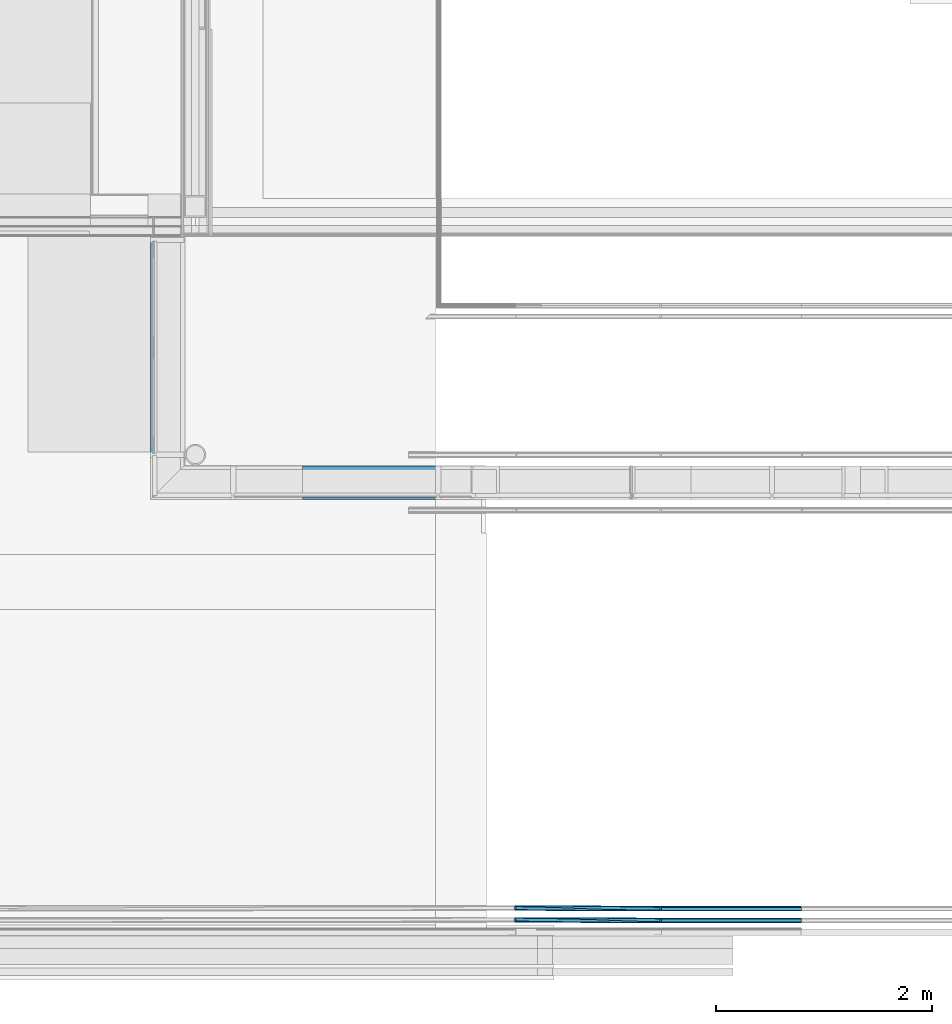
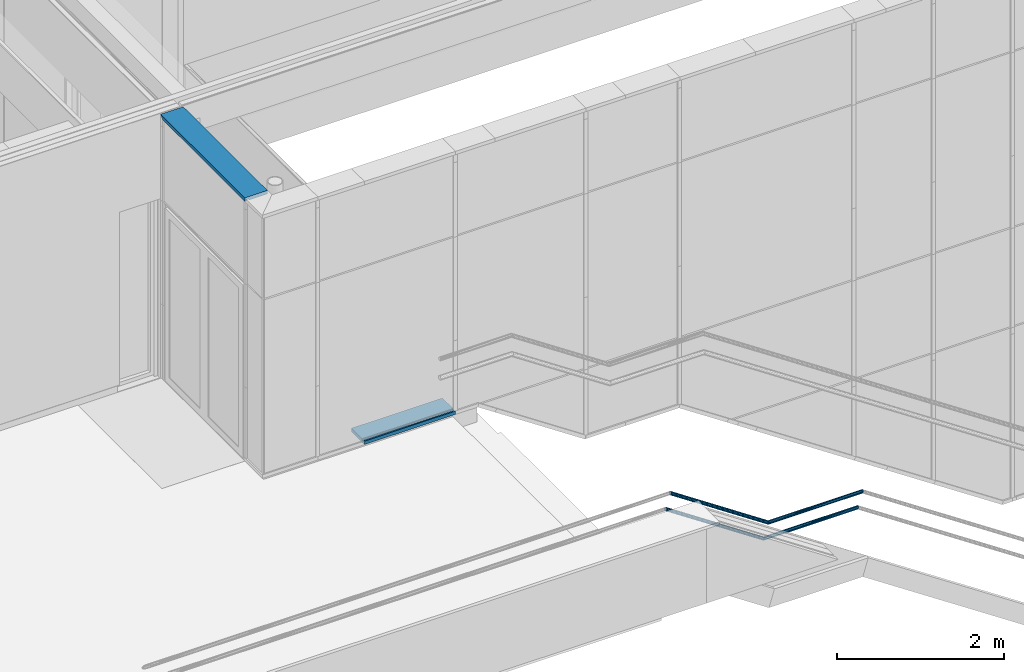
# One storey, part 13 of 137: 6 members, 2 elements without a shape of their own.
"""IFC2X3 building model written with IfcOpenShell, lengths in millimetres."""

import ifcopenshell
import ifcopenshell.guid

model = None  # the IFC model being written
_history = None  # IfcOwnerHistory: only IFC2X3 demands one
_inside = {}  # id of a spatial element -> (the spatial element, [elements in it])
_under = {}  # id of a project, library or spatial element -> (it, [spatial elements below it])
_declared = {}  # id of a project -> (the project, [libraries it declares])
_typed = {}  # id of a type object -> (the type object, [elements of that type])
_made_of = {}  # id of a material, layer set ... -> (it, [elements and type objects made of it])


def new_model(schema):
    """Start an empty IFC model of exactly this schema.

    Asked for "IFC4X3", IfcOpenShell would pick the latest addendum, in which some entities
    have other attributes; the version numbers below select the first issue.
    IFC2X3 requires an IfcOwnerHistory on every rooted entity: one is made here for all.
    """
    global model, _history
    if schema == "IFC4X3":
        model = ifcopenshell.file(schema_version=(4, 3, 0, 0))
    else:
        model = ifcopenshell.file(schema=schema)
    _inside.clear()
    _under.clear()
    _declared.clear()
    _typed.clear()
    _made_of.clear()
    _history = None
    if model.schema == "IFC2X3":
        org = make("IfcOrganization", Name="unknown")
        user = make(
            "IfcPersonAndOrganization",
            ThePerson=make("IfcPerson", FamilyName="unknown"),
            TheOrganization=org,
        )
        app = make(
            "IfcApplication",
            ApplicationDeveloper=org,
            Version="unknown",
            ApplicationFullName="unknown",
            ApplicationIdentifier="unknown",
        )
        _history = make(
            "IfcOwnerHistory",
            OwningUser=user,
            OwningApplication=app,
            ChangeAction="ADDED",
            CreationDate=0,
        )
    return model


def make(cls, **values):
    """One entity of the class cls with the attributes given. An attribute that is None is left unset."""
    return model.create_entity(
        cls, **{name: value for name, value in values.items() if value is not None}
    )


def entity(cls, *values):
    """Any entity or typed value of the class cls, its attributes in the order of the schema. None: left unset."""
    e = model.create_entity(cls)
    for i, value in enumerate(values):
        if value is not None:
            e[i] = value
    return e


def rooted(cls, **values):
    """An entity with a GlobalId (a new one), such as an element, a storey or a relation."""
    return make(cls, GlobalId=ifcopenshell.guid.new(), OwnerHistory=_history, **values)


def si_unit(unit_type, name, prefix=None):
    """IfcSIUnit, for example si_unit("LENGTHUNIT", "METRE", prefix="MILLI")."""
    return make("IfcSIUnit", UnitType=unit_type, Prefix=prefix, Name=name)


def converted_unit(unit_type, name, factor, base, dimensions=None, offset=None):
    """IfcConversionBasedUnit, such as the inch: factor (a typed value) times the base unit."""
    return make(
        "IfcConversionBasedUnit"
        if offset is None
        else "IfcConversionBasedUnitWithOffset",
        ConversionOffset=offset,
        Dimensions=None
        if dimensions is None
        else entity("IfcDimensionalExponents", *dimensions),
        UnitType=unit_type,
        Name=name,
        ConversionFactor=make(
            "IfcMeasureWithUnit", ValueComponent=factor, UnitComponent=base
        ),
    )


def derived_unit(unit_type, elements):
    """IfcDerivedUnit: a product of units, each with its exponent."""
    return make(
        "IfcDerivedUnit",
        Elements=[
            make("IfcDerivedUnitElement", Unit=unit, Exponent=power)
            for unit, power in elements
        ],
        UnitType=unit_type,
    )


def money_unit(currency):
    """IfcMonetaryUnit."""
    return make("IfcMonetaryUnit", Currency=currency)


def assignment(units):
    """IfcUnitAssignment: the units of a project."""
    return None if units is None else make("IfcUnitAssignment", Units=units)


def point(xyz):
    """IfcCartesianPoint."""
    return None if xyz is None else make("IfcCartesianPoint", Coordinates=xyz)


def direction(xyz):
    """IfcDirection."""
    return None if xyz is None else make("IfcDirection", DirectionRatios=xyz)


def frame(location, z_axis=None, x_axis=None):
    """IfcAxis2Placement3D, a coordinate frame: its origin and axes. An axis left out is left unset."""
    return make(
        "IfcAxis2Placement3D",
        Location=point(location),
        Axis=direction(z_axis),
        RefDirection=direction(x_axis),
    )


def origin_with_axes():
    """The frame at (0, 0, 0) with the z axis (0, 0, 1) and the x axis (1, 0, 0) written out."""
    return frame((0.0, 0.0, 0.0), z_axis=(0.0, 0.0, 1.0), x_axis=(1.0, 0.0, 0.0))


def place(relative_to, where):
    """IfcLocalPlacement: puts the frame where relative to a parent placement (None: the world)."""
    return make(
        "IfcLocalPlacement", PlacementRelTo=relative_to, RelativePlacement=where
    )


def context(
    kind, dimensions, precision=None, world=None, true_north=None, identifier=None
):
    """IfcGeometricRepresentationContext, for example the 3D "Model" context."""
    return make(
        "IfcGeometricRepresentationContext",
        ContextIdentifier=identifier,
        ContextType=kind,
        CoordinateSpaceDimension=dimensions,
        Precision=precision,
        WorldCoordinateSystem=world,
        TrueNorth=true_north,
    )


def subcontext(parent, identifier, kind, view, scale=None):
    """IfcGeometricRepresentationSubContext, for example "Body" below "Model"."""
    return make(
        "IfcGeometricRepresentationSubContext",
        ContextIdentifier=identifier,
        ContextType=kind,
        ParentContext=parent,
        TargetScale=scale,
        TargetView=view,
    )


def project(units=None, contexts=None):
    """IfcProject with its units and contexts."""
    return rooted(
        "IfcProject",
        Name="project",
        RepresentationContexts=contexts,
        UnitsInContext=assignment(units),
    )


def spatial(cls, under=None, at=None, **own):
    """A site, building, storey or space (cls), placed at a placement, below another one or the project."""
    s = rooted(cls, ObjectPlacement=at, **own)
    if under is not None:
        _under.setdefault(under.id(), (under, []))[1].append(s)
    return s


def faces_of(points, faces, orient=None, outer=None):
    """IfcFace entities. A face is a list of loops; a loop is a list of indices into points, from 0.

    orient and outer hold one flag for each loop. By default every Orientation is true, the
    first loop of a face is its IfcFaceOuterBound and the others are IfcFaceBound.
    """
    made = []
    for i, loops in enumerate(faces):
        bounds = []
        for j, loop in enumerate(loops):
            is_outer = j == 0 if outer is None else outer[i][j]
            bounds.append(
                make(
                    "IfcFaceOuterBound" if is_outer else "IfcFaceBound",
                    Bound=make("IfcPolyLoop", Polygon=[points[k] for k in loop]),
                    Orientation=True if orient is None else orient[i][j],
                )
            )
        made.append(make("IfcFace", Bounds=bounds))
    return made


def faceted_brep(points, faces, orient=None, outer=None, voids=None):
    """IfcFacetedBrep: a solid bounded by flat faces; with voids (closed shells), ...WithVoids."""
    shared = [point(p) for p in points]
    hull = make("IfcClosedShell", CfsFaces=faces_of(shared, faces, orient, outer))
    if voids is None:
        return make("IfcFacetedBrep", Outer=hull)
    return make(
        "IfcFacetedBrepWithVoids",
        Outer=hull,
        Voids=[
            make(cls, CfsFaces=faces_of(shared, fs, o, b)) for cls, fs, o, b in voids
        ],
    )


def shape(context_of_items, identifier, shape_type, items):
    """IfcShapeRepresentation: the items that make up one representation, for example the "Body"."""
    return make(
        "IfcShapeRepresentation",
        ContextOfItems=context_of_items,
        RepresentationIdentifier=identifier,
        RepresentationType=shape_type,
        Items=items,
    )


def material(Name=None, Category=None):
    """IfcMaterial."""
    return make("IfcMaterial", Name=Name, Category=Category)


def made_of(thing, what):
    """Note that an element or type object is made of a material, layer set ...; save() writes the relation."""
    if what is not None:
        _made_of.setdefault(what.id(), (what, []))[1].append(thing)
    return thing


def type_object(cls, material=None, **own):
    """A type object (cls), such as IfcWallType, which elements share."""
    return made_of(rooted(cls, **own), material)


def element(
    cls,
    number,
    at=None,
    inside=None,
    cuts=None,
    type_object=None,
    material=None,
    context=None,
    identifier="Body",
    shape_type=None,
    held_by="IfcProductDefinitionShape",
    body=None,
    shapes=None,
    **own,
):
    """One element of the class cls, such as IfcWall. Its Tag is "e" and its number.

    at: its placement. inside: the storey or other place that contains it. cuts: it is an
    opening in that element (IfcRelVoidsElement). A single representation is given by context,
    identifier, shape_type and body (its items); several are given by shapes. held_by: the class
    of the entity that holds the representations. save() writes the other relations.
    """
    e = rooted(cls, Tag="e%d" % number, ObjectPlacement=at, **own)
    if body is not None:
        shapes = [shape(context, identifier, shape_type, body)]
    if shapes is not None:
        e.Representation = make(held_by, Representations=shapes)
    if inside is not None:
        _inside.setdefault(inside.id(), (inside, []))[1].append(e)
    if cuts is not None:
        rooted(
            "IfcRelVoidsElement", RelatingBuildingElement=cuts, RelatedOpeningElement=e
        )
    if type_object is not None:
        _typed.setdefault(type_object.id(), (type_object, []))[1].append(e)
    return made_of(e, material)


def aggregate(whole, parts):
    """IfcRelAggregates: a whole, such as a stair, and the parts it consists of."""
    return rooted("IfcRelAggregates", RelatingObject=whole, RelatedObjects=parts)


def save(model, path):
    """Write the relations noted so far, then the file.

    IfcRelAggregates (storeys below a building ...), IfcRelContainedInSpatialStructure (elements
    in a storey), IfcRelDefinesByType, IfcRelAssociatesMaterial and IfcRelDeclares: one each for
    every whole, place, type object, material and project.
    """
    for whole, parts in _under.values():
        aggregate(whole, parts)
    for where, things in _inside.values():
        rooted(
            "IfcRelContainedInSpatialStructure",
            RelatedElements=things,
            RelatingStructure=where,
        )
    for kind, things in _typed.values():
        rooted("IfcRelDefinesByType", RelatedObjects=things, RelatingType=kind)
    for what, things in _made_of.values():
        rooted("IfcRelAssociatesMaterial", RelatedObjects=things, RelatingMaterial=what)
    for by, libraries in _declared.values():
        rooted("IfcRelDeclares", RelatingContext=by, RelatedDefinitions=libraries)
    model.write(path)


model = new_model("IFC2X3")

# Units and contexts
model_context = context("Model", 3, precision=0.01, world=origin_with_axes(), true_north=direction((0.0, 1.0)))
body_context = subcontext(model_context, "Body", "Model", "MODEL_VIEW")
ifc_project = project(units=[si_unit("LENGTHUNIT", "METRE", prefix="MILLI"), si_unit("AREAUNIT", "SQUARE_METRE"), si_unit("VOLUMEUNIT", "CUBIC_METRE"), converted_unit("PLANEANGLEUNIT", "DEGREE", entity("IfcPlaneAngleMeasure", 0.0174532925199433), si_unit("PLANEANGLEUNIT", "RADIAN"), dimensions=[0, 0, 0, 0, 0, 0, 0]), money_unit("EUR"), converted_unit("TIMEUNIT", "Year", entity("IfcTimeMeasure", 31556926.0), si_unit("TIMEUNIT", "SECOND"), dimensions=[0, 0, 1, 0, 0, 0, 0]), si_unit("MASSUNIT", "GRAM", prefix="KILO"), si_unit("THERMODYNAMICTEMPERATUREUNIT", "DEGREE_CELSIUS"), si_unit("LUMINOUSINTENSITYUNIT", "LUMEN"), si_unit("ENERGYUNIT", "JOULE", prefix="MEGA"), derived_unit("THERMALCONDUCTANCEUNIT", [(si_unit("POWERUNIT", "WATT"), 1), (si_unit("LENGTHUNIT", "METRE"), -1), (si_unit("THERMODYNAMICTEMPERATUREUNIT", "KELVIN"), -1)]), derived_unit("SPECIFICHEATCAPACITYUNIT", [(si_unit("ENERGYUNIT", "JOULE"), 1), (si_unit("MASSUNIT", "GRAM", prefix="KILO"), -1), (si_unit("THERMODYNAMICTEMPERATUREUNIT", "KELVIN"), -1)]), derived_unit("MASSDENSITYUNIT", [(si_unit("MASSUNIT", "GRAM", prefix="KILO"), 1), (si_unit("VOLUMEUNIT", "CUBIC_METRE"), -1)])], contexts=[model_context])

# Site, building, storey
site_placement = place(None, origin_with_axes())
site = spatial("IfcSite", under=ifc_project, at=site_placement, Name="Site", CompositionType="ELEMENT")
building_placement = place(site_placement, origin_with_axes())
building = spatial("IfcBuilding", under=site, at=building_placement, Name="Naam gebouw", CompositionType="ELEMENT")
storey_placement = place(building_placement, frame((0.0, 0.0, 3960.0), z_axis=(0.0, 0.0, 1.0), x_axis=(1.0, 0.0, 0.0)))
storey = spatial("IfcBuildingStorey", under=building, at=storey_placement, Name="1e verdieping", CompositionType="ELEMENT", Elevation=3960.0)

# Railing, members
railing_type = type_object("IfcRailingType", Name="Railing Type", PredefinedType="NOTDEFINED")
railing_placement = place(storey_placement, frame((12900.00010768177, 231.9997137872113, -3791.995884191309), z_axis=(0.0, 0.0, 1.0), x_axis=(1.0, 0.0, 0.0)))
railing = element("IfcRailing", 1, at=railing_placement, inside=storey, type_object=railing_type, Name="34_Reling-x", PredefinedType="NOTDEFINED")
ifc_material_1 = material(Name="Metaal - RVS")
member_type_1 = type_object("IfcMemberType", Name="IfcMember", PredefinedType="USERDEFINED")
member_1_placement = place(railing_placement, frame((-404.7501801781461, 142.5595843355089, 3538.138020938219), z_axis=(0.0, 0.0, 1.0), x_axis=(1.0, 0.0, 0.0)))
member_1 = element("IfcMember", 2, at=member_1_placement, type_object=member_type_1, material=ifc_material_1, Name="h3 Staal legeringen_Handregel-x", context=body_context, shape_type="Brep", body=[
    faceted_brep([(-682.2918659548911, 26.72041909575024, 929.8716788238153), (-681.022689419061, 26.35164558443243, 934.0652779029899), (669.0142893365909, 21.23394089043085, 34.0446478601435), (-683.5621292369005, 26.35540652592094, 925.6780797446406), (-684.7948829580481, 25.26769859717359, 921.6119010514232), (-685.9526705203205, 23.49034476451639, 917.7966915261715), (-687.0003131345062, 21.07734902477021, 914.3483743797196), (-687.9059787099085, 18.10202903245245, 911.3717249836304), (-688.6421490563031, 14.6547883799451, 908.9571873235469), (-689.1864560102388, 10.84036973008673, 907.1781259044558), (-689.5223610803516, 6.774672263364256, 906.0885966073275), (-689.6396579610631, 2.581230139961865, 905.7217042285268), (-689.5347826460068, -1.612541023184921, 906.0885966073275), (-689.2109217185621, -5.679215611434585, 907.1781259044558), (-688.6779155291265, -9.495229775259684, 908.9571873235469), (-687.9519592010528, -12.94463585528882, 911.3717249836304), (-687.055110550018, -15.92262539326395, 914.3483743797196), (-686.0146198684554, -18.33871368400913, 917.7966915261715), (-684.8621019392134, -20.11948910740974, 921.6119010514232), (-683.6325754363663, -21.21084370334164, 925.6780797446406), (-682.3633989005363, -21.57961721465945, 929.8716788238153), (-681.0931356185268, -21.21460464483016, 934.0652779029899), (-679.8603818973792, -20.12689671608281, 938.1314565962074), (-678.7025943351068, -18.34954288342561, 941.9466661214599), (-677.6549517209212, -15.93654714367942, 945.3949832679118), (-676.7492861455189, -12.96122715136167, 948.371632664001), (-676.0131157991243, -9.51398649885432, 950.7861703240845), (-675.4688088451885, -5.699567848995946, 952.5652317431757), (-675.1329037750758, -1.633870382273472, 953.6547610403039), (-675.0156068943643, 2.559571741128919, 954.0216534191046), (-675.1204822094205, 6.753342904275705, 953.6547610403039), (-675.4443431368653, 10.82001749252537, 952.5652317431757), (-675.9773493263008, 14.63603165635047, 950.7861703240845), (-676.7033056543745, 18.08543773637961, 948.371632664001), (-677.6001543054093, 21.06342727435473, 945.3949832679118), (-678.640644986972, 23.47951556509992, 941.9466661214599), (-679.793162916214, 25.26029098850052, 938.1314565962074), (670.2435468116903, 20.1422903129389, 38.11083027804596), (667.7452078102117, 21.60302022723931, 29.85104493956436), (666.4748626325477, 21.23831403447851, 25.65744201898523), (665.241852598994, 20.15090372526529, 21.59125960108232), (664.0836420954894, 18.37382971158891, 17.77604658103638), (663.035422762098, 15.96108748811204, 14.32772627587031), (662.1290442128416, 12.98598700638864, 11.3510741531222), (661.3920463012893, 9.538925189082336, 8.936534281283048), (660.8468223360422, 5.724639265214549, 7.157471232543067), (660.5099386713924, 1.659024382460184, 6.067940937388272), (660.3916313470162, -2.534387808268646, 5.701048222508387), (660.4954950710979, -6.728182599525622, 6.067940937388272), (660.8183739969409, -10.7949336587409, 7.157471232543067), (661.3504576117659, -14.61107481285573, 8.936534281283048), (662.0755788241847, -18.06065454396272, 11.3510741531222), (662.9717051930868, -21.03885911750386, 14.32772627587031), (664.011608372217, -23.45519729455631, 17.77604658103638), (665.1636914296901, -25.23624986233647, 21.59125960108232), (666.3929489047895, -26.32790043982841, 25.65744201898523), (667.6620304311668, -26.69697977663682, 29.85104493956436), (668.932375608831, -26.33227358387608, 34.0446478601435), (670.1653856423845, -25.24486327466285, 38.11083027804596), (671.323596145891, -23.46778926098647, 41.92604329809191), (672.3718154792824, -21.0550470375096, 45.37436360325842), (673.2781940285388, -18.07994655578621, 48.35101572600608), (674.0151919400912, -14.6328847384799, 50.76555559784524), (674.5604159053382, -10.81859881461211, 52.54461864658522), (674.897299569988, -6.752983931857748, 53.63414894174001), (675.0156068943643, -2.559571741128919, 54.0010416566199), (674.9117431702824, 1.634223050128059, 53.63414894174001), (674.5888642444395, 5.700974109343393, 52.54461864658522), (674.0567806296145, 9.517115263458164, 50.76555559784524), (673.3316594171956, 12.96669499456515, 48.35101572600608), (672.4355330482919, 15.9448995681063, 45.37436360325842), (671.3956298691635, 18.3612377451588, 41.92604329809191)], [[[0, 1, 2]], [[0, 3, 4, 5, 6, 7, 8, 9, 10, 11, 12, 13, 14, 15, 16, 17, 18, 19, 20, 21, 22, 23, 24, 25, 26, 27, 28, 29, 30, 31, 32, 33, 34, 35, 36, 1]], [[1, 37, 2]], [[0, 2, 38]], [[3, 0, 38]], [[4, 3, 39]], [[5, 4, 40]], [[6, 5, 41]], [[7, 6, 42]], [[8, 7, 43]], [[9, 8, 44]], [[10, 9, 45]], [[11, 10, 46]], [[12, 11, 47]], [[13, 12, 48]], [[14, 13, 49]], [[15, 14, 50]], [[16, 15, 51]], [[17, 16, 52]], [[18, 17, 53]], [[19, 18, 54]], [[20, 19, 55]], [[21, 20, 56]], [[22, 21, 57]], [[23, 22, 58]], [[24, 23, 59]], [[25, 24, 60]], [[26, 25, 61]], [[27, 26, 62]], [[28, 27, 63]], [[29, 28, 64]], [[30, 29, 65]], [[31, 30, 66]], [[32, 31, 67]], [[33, 32, 68]], [[34, 33, 69]], [[35, 34, 70]], [[36, 35, 71]], [[1, 36, 37]], [[38, 2, 37, 71, 70, 69, 68, 67, 66, 65, 64, 63, 62, 61, 60, 59, 58, 57, 56, 55, 54, 53, 52, 51, 50, 49, 48, 47, 46, 45, 44, 43, 42, 41, 40, 39]], [[3, 38, 39]], [[4, 39, 40]], [[5, 40, 41]], [[6, 41, 42]], [[7, 42, 43]], [[8, 43, 44]], [[9, 44, 45]], [[10, 45, 46]], [[11, 46, 47]], [[12, 47, 48]], [[13, 48, 49]], [[14, 49, 50]], [[15, 50, 51]], [[16, 51, 52]], [[17, 52, 53]], [[18, 53, 54]], [[19, 54, 55]], [[20, 55, 56]], [[21, 56, 57]], [[22, 57, 58]], [[23, 58, 59]], [[24, 59, 60]], [[25, 60, 61]], [[26, 61, 62]], [[27, 62, 63]], [[28, 63, 64]], [[29, 64, 65]], [[30, 65, 66]], [[31, 66, 67]], [[32, 67, 68]], [[33, 68, 69]], [[34, 69, 70]], [[35, 70, 71]], [[36, 71, 37]]]),
])
member_2_placement = place(railing_placement, frame((920.1326803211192, 140.0000428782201, 3537.961066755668), z_axis=(0.0, 0.0, 1.0), x_axis=(1.0, 0.0, 0.0)))
member_2 = element("IfcMember", 3, at=member_2_placement, type_object=member_type_1, material=ifc_material_1, Name="h3 Staal legeringen_Handregel-x", context=body_context, shape_type="Brep", body=[
    faceted_brep([(-657.1376526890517, 24.16256168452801, 29.85104493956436), (-655.8685711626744, 23.79348234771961, 34.0446478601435), (643.8249418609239, 23.78313723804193, 34.04464514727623), (-658.4079978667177, 23.79785549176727, 25.65744201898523), (-659.6410079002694, 22.71044518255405, 21.59125960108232), (-660.7992184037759, 20.93337116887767, 17.77604658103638), (-661.8474377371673, 18.52062894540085, 14.32772627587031), (-662.7538162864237, 15.5455284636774, 11.3510741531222), (-663.4908141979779, 12.09846664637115, 8.936534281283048), (-664.0360381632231, 8.284180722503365, 7.157471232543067), (-664.3729218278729, 4.218565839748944, 6.067940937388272), (-664.4912291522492, 0.02515364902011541, 5.701048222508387), (-664.3873654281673, -4.168641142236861, 6.067940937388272), (-664.0644865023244, -8.235392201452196, 7.157471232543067), (-663.5324028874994, -12.05153335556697, 8.936534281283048), (-662.8072816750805, -15.50111308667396, 11.3510741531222), (-661.9111553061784, -18.4793176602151, 14.32772627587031), (-660.8712521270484, -20.89565583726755, 17.77604658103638), (-659.7191690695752, -22.67670840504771, 21.59125960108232), (-658.4899115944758, -23.7683589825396, 25.65744201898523), (-657.2208300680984, -24.13743831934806, 29.85104493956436), (-655.9504848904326, -23.77273212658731, 34.0446478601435), (-654.7174748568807, -22.68532181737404, 38.11083027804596), (-653.5592643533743, -20.90824780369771, 41.92604329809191), (-652.5110450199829, -18.49550558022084, 45.37436360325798), (-651.6046664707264, -15.52040509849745, 48.35101572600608), (-650.8676685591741, -12.07334328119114, 50.76555559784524), (-650.3224445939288, -8.259057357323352, 52.54461864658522), (-649.9855609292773, -4.193442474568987, 53.63414894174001), (-649.8672536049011, -3.02838401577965e-05, 54.0010416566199), (-649.9711173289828, 4.193764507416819, 53.63414894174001), (-650.2939962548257, 8.260515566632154, 52.54461864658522), (-650.8260798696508, 12.07665672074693, 50.76555559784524), (-651.5512010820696, 15.52623645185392, 48.35101572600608), (-652.4473274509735, 18.50444102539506, 45.37436360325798), (-653.4872306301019, 20.92077920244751, 41.92604329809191), (-654.6393136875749, 22.70183177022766, 38.11083027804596), (645.0560830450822, 22.69360685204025, 38.11082811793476), (642.5552208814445, 24.15002994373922, 29.85104165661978), (641.2854999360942, 23.78313711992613, 25.65743816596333), (640.0543588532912, 22.69360661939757, 21.59125519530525), (638.8992052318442, 20.91454327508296, 17.77604165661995), (637.8551378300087, 18.50000302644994, 14.32772088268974), (636.9538801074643, 15.52335045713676, 11.35106835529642), (636.222816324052, 12.07502964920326, 8.93652815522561), (635.6841594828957, 8.25981608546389, 7.157464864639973), (635.3542763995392, 4.193633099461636, 6.06793442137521), (635.243190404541, 2.960363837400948e-05, 5.701041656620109), (635.3542767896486, -4.193573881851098, 6.06793442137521), (635.6841602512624, -8.259756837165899, 7.157464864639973), (636.2228174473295, -12.07497035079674, 8.93652815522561), (636.9538815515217, -15.52329109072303, 11.35106835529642), (637.85513955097, -18.49994357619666, 14.32772088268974), (638.8992071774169, -20.91448372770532, 17.77604165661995), (640.0543609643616, -22.69354696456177, 21.59125519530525), (641.2855021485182, -23.78307735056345, 25.65743816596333), (642.5552231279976, -24.14997005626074, 29.85104165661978), (643.8249440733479, -23.78307723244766, 34.04464514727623), (645.0560851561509, -22.69354673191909, 38.11082811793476), (646.2112387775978, -20.91448338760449, 41.92604165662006), (647.2553061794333, -18.49994313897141, 45.37436243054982), (648.1565639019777, -15.52329056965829, 48.35101495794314), (648.88762768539, -12.07496976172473, 50.76555515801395), (649.4262845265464, -8.259756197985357, 52.54461844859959), (649.7561676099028, -4.193573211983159, 53.6341488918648), (649.8672536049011, 3.028384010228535e-05, 54.0010416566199), (649.7561672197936, 4.193633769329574, 53.6341488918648), (649.4262837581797, 8.259816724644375, 52.54461844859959), (648.8876265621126, 12.07503023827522, 50.76555515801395), (648.1565624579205, 15.52335097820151, 48.35101495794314), (647.2553044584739, 18.5000034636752, 45.37436243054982), (646.2112368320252, 20.91454361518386, 41.92604165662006)], [[[0, 1, 2]], [[0, 3, 4, 5, 6, 7, 8, 9, 10, 11, 12, 13, 14, 15, 16, 17, 18, 19, 20, 21, 22, 23, 24, 25, 26, 27, 28, 29, 30, 31, 32, 33, 34, 35, 36, 1]], [[1, 37, 2]], [[0, 2, 38]], [[3, 0, 38]], [[4, 3, 39]], [[5, 4, 40]], [[6, 5, 41]], [[7, 6, 42]], [[8, 7, 43]], [[9, 8, 44]], [[10, 9, 45]], [[11, 10, 46, 47]], [[12, 11, 47, 48]], [[13, 12, 48]], [[14, 13, 49]], [[15, 14, 50]], [[16, 15, 51]], [[17, 16, 52]], [[18, 17, 53]], [[19, 18, 54]], [[20, 19, 55]], [[21, 20, 56]], [[22, 21, 57]], [[23, 22, 58]], [[24, 23, 59]], [[25, 24, 60]], [[26, 25, 61]], [[27, 26, 62]], [[28, 27, 63]], [[29, 28, 64, 65]], [[30, 29, 65, 66]], [[31, 30, 66]], [[32, 31, 67]], [[33, 32, 68]], [[34, 33, 69]], [[35, 34, 70]], [[36, 35, 71]], [[1, 36, 37]], [[38, 2, 37, 71, 70, 69, 68, 67, 66, 65, 64, 63, 62, 61, 60, 59, 58, 57, 56, 55, 54, 53, 52, 51, 50, 49, 48, 47, 46, 45, 44, 43, 42, 41, 40, 39]], [[3, 38, 39]], [[4, 39, 40]], [[5, 40, 41]], [[6, 41, 42]], [[7, 42, 43]], [[8, 43, 44]], [[9, 44, 45]], [[10, 45, 46]], [[13, 48, 49]], [[14, 49, 50]], [[15, 50, 51]], [[16, 51, 52]], [[17, 52, 53]], [[18, 53, 54]], [[19, 54, 55]], [[20, 55, 56]], [[21, 56, 57]], [[22, 57, 58]], [[23, 58, 59]], [[24, 59, 60]], [[25, 60, 61]], [[26, 61, 62]], [[27, 62, 63]], [[28, 63, 64]], [[31, 66, 67]], [[32, 67, 68]], [[33, 68, 69]], [[34, 69, 70]], [[35, 70, 71]], [[36, 71, 37]]]),
])
member_3_placement = place(railing_placement, frame((920.0284081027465, 30.00004287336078, 3837.961066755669), z_axis=(0.0, 0.0, 1.0), x_axis=(1.0, 0.0, 0.0)))
member_3 = element("IfcMember", 4, at=member_3_placement, type_object=member_type_1, material=ifc_material_1, Name="h3 Staal legeringen_", context=body_context, shape_type="Brep", body=[
    faceted_brep([(-657.2419300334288, 24.16256167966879, 29.85104493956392), (-655.9728485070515, 23.79348234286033, 34.04464786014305), (643.929219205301, 23.78313724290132, 34.04464514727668), (-658.5122752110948, 23.79785548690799, 25.65744201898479), (-659.7452852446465, 22.71044517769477, 21.59125960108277), (-660.903495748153, 20.93337116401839, 17.77604658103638), (-661.9517150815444, 18.52062894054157, 14.32772627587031), (-662.8580936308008, 15.54552845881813, 11.3510741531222), (-663.595091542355, 12.09846664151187, 8.936534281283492), (-664.1403155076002, 8.284180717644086, 7.157471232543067), (-664.47719917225, 4.218565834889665, 6.067940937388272), (-664.5955064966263, 0.02515364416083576, 5.701048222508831), (-664.4916427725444, -4.168641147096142, 6.067940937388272), (-664.1687638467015, -8.235392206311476, 7.157471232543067), (-663.6366802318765, -12.05153336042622, 8.936534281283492), (-662.9115590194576, -15.50111309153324, 11.3510741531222), (-662.0154326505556, -18.47931766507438, 14.32772627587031), (-660.9755294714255, -20.89565584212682, 17.77604658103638), (-659.8234464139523, -22.67670840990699, 21.59125960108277), (-658.5941889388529, -23.7683589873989, 25.65744201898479), (-657.3251074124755, -24.13743832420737, 29.85104493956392), (-656.0547622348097, -23.7727321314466, 34.04464786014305), (-654.8217522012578, -22.68532182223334, 38.11083027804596), (-653.6635416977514, -20.90824780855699, 41.92604329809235), (-652.61532236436, -18.49550558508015, 45.37436360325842), (-651.7089438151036, -15.52040510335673, 48.35101572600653), (-650.9719459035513, -12.07334328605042, 50.76555559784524), (-650.426721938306, -8.25905736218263, 52.54461864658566), (-650.0898382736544, -4.193442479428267, 53.63414894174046), (-649.9715309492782, -3.028869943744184e-05, 54.0010416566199), (-650.0753946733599, 4.19376450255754, 53.63414894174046), (-650.3982735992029, 8.260515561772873, 52.54461864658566), (-650.9303572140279, 12.07665671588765, 50.76555559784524), (-651.6554784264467, 15.52623644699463, 48.35101572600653), (-652.5516047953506, 18.50444102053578, 45.37436360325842), (-653.591507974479, 20.92077919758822, 41.92604329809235), (-654.7435910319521, 22.70183176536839, 38.11083027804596), (645.1603603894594, 22.69360685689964, 38.11082811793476), (642.6594982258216, 24.15002994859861, 29.85104165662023), (641.3897772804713, 23.78313712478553, 25.65743816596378), (640.1586361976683, 22.69360662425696, 21.5912551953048), (639.0034825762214, 20.91454327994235, 17.77604165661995), (637.9594151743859, 18.50000303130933, 14.32772088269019), (637.0581574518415, 15.52335046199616, 11.35106835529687), (636.3270936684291, 12.07502965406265, 8.93652815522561), (635.7884368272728, 8.25981609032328, 7.157464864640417), (635.4585537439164, 4.193633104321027, 6.067934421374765), (635.3474677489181, 2.960849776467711e-05, 5.701041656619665), (635.4585541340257, -4.193573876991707, 6.067934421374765), (635.7884375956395, -8.259756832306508, 7.157464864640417), (636.3270947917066, -12.07497034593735, 8.93652815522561), (637.0581588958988, -15.52329108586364, 11.35106835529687), (637.9594168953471, -18.4999435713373, 14.32772088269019), (639.003484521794, -20.91448372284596, 17.77604165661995), (640.1586383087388, -22.69354695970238, 21.5912551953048), (641.3897794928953, -23.78307734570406, 25.65743816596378), (642.6595004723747, -24.14997005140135, 29.85104165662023), (643.929221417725, -23.78307722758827, 34.04464514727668), (645.160362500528, -22.6935467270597, 38.11082811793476), (646.315516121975, -20.91448338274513, 41.92604165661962), (647.3595835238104, -18.49994313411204, 45.37436243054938), (648.2608412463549, -15.5232905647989, 48.35101495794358), (648.9919050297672, -12.07496975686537, 50.76555515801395), (649.5305618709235, -8.259756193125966, 52.54461844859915), (649.86044495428, -4.193573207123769, 53.6341488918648), (649.9715309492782, 3.028869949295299e-05, 54.0010416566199), (649.8604445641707, 4.193633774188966, 53.6341488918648), (649.5305611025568, 8.259816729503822, 52.54461844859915), (648.9919039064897, 12.07503024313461, 50.76555515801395), (648.2608398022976, 15.5233509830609, 48.35101495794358), (647.359581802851, 18.50000346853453, 45.37436243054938), (646.3155141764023, 20.91454362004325, 41.92604165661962)], [[[0, 1, 2]], [[0, 3, 4, 5, 6, 7, 8, 9, 10, 11, 12, 13, 14, 15, 16, 17, 18, 19, 20, 21, 22, 23, 24, 25, 26, 27, 28, 29, 30, 31, 32, 33, 34, 35, 36, 1]], [[1, 37, 2]], [[0, 2, 38]], [[3, 0, 38]], [[4, 3, 39]], [[5, 4, 40]], [[6, 5, 41]], [[7, 6, 42]], [[8, 7, 43]], [[9, 8, 44]], [[10, 9, 45]], [[11, 10, 46, 47]], [[12, 11, 47, 48]], [[13, 12, 48]], [[14, 13, 49]], [[15, 14, 50]], [[16, 15, 51]], [[17, 16, 52]], [[18, 17, 53]], [[19, 18, 54]], [[20, 19, 55]], [[21, 20, 56]], [[22, 21, 57]], [[23, 22, 58]], [[24, 23, 59]], [[25, 24, 60]], [[26, 25, 61]], [[27, 26, 62]], [[28, 27, 63]], [[29, 28, 64, 65]], [[30, 29, 65, 66]], [[31, 30, 66]], [[32, 31, 67]], [[33, 32, 68]], [[34, 33, 69]], [[35, 34, 70]], [[36, 35, 71]], [[1, 36, 37]], [[38, 2, 37, 71, 70, 69, 68, 67, 66, 65, 64, 63, 62, 61, 60, 59, 58, 57, 56, 55, 54, 53, 52, 51, 50, 49, 48, 47, 46, 45, 44, 43, 42, 41, 40, 39]], [[3, 38, 39]], [[4, 39, 40]], [[5, 40, 41]], [[6, 41, 42]], [[7, 42, 43]], [[8, 43, 44]], [[9, 44, 45]], [[10, 45, 46]], [[13, 48, 49]], [[14, 49, 50]], [[15, 50, 51]], [[16, 51, 52]], [[17, 52, 53]], [[18, 53, 54]], [[19, 54, 55]], [[20, 55, 56]], [[21, 56, 57]], [[22, 57, 58]], [[23, 58, 59]], [[24, 59, 60]], [[25, 60, 61]], [[26, 61, 62]], [[27, 62, 63]], [[28, 63, 64]], [[31, 66, 67]], [[32, 67, 68]], [[33, 68, 69]], [[34, 69, 70]], [[35, 70, 71]], [[36, 71, 37]]]),
])
member_4_placement = place(railing_placement, frame((-404.9465835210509, 32.55953826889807, 3837.998985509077), z_axis=(0.0, 0.0, 1.0), x_axis=(1.0, 0.0, 0.0)))
member_4 = element("IfcMember", 5, at=member_4_placement, type_object=member_type_1, material=ifc_material_1, Name="h3 Staal legeringen_", context=body_context, shape_type="Brep", body=[
    faceted_brep([(-682.2797197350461, 26.72037303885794, 929.8554838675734), (-681.0105431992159, 26.35159952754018, 934.0490829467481), (669.0021431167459, 21.23398694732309, 34.04464786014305), (-683.5499830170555, 26.3553604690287, 925.6618847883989), (-684.7827367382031, 25.26765254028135, 921.5957060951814), (-685.9405243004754, 23.49029870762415, 917.7804965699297), (-686.9881669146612, 21.07730296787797, 914.3321794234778), (-687.8938324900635, 18.1019829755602, 911.3555300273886), (-688.6300028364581, 14.65474232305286, 908.9409923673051), (-689.1743097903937, 10.84032367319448, 907.1619309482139), (-689.5102148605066, 6.774626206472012, 906.0724016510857), (-689.6275117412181, 2.581184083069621, 905.705509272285), (-689.5226364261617, -1.612587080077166, 906.0724016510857), (-689.1987754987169, -5.679261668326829, 907.1619309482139), (-688.6657693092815, -9.495275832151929, 908.9409923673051), (-687.9398129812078, -12.94468191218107, 911.3555300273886), (-687.0429643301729, -15.92267145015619, 914.3321794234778), (-686.0024736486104, -18.33875974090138, 917.7804965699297), (-684.8499557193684, -20.11953516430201, 921.5957060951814), (-683.6204292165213, -21.21088976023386, 925.6618847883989), (-682.3512526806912, -21.57966327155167, 929.8554838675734), (-681.0809893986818, -21.21465070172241, 934.0490829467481), (-679.8482356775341, -20.12694277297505, 938.1152616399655), (-678.6904481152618, -18.34958894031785, 941.9304711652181), (-677.6428055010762, -15.93659320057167, 945.37878831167), (-676.7371399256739, -12.96127320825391, 948.3554377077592), (-676.0009695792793, -9.514032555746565, 950.7699753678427), (-675.4566626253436, -5.699613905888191, 952.5490367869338), (-675.1207575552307, -1.633916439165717, 953.6385660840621), (-675.0034606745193, 2.559525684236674, 954.0054584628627), (-675.1083359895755, 6.753296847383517, 953.6385660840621), (-675.4321969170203, 10.81997143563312, 952.5490367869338), (-675.9652031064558, 14.63598559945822, 950.7699753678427), (-676.6911594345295, 18.08539167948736, 948.3554377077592), (-677.5880080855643, 21.06338121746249, 945.37878831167), (-678.628498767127, 23.47946950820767, 941.9304711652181), (-679.781016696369, 25.26024493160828, 938.1152616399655), (670.2314005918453, 20.14233636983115, 38.11083027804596), (667.7330615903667, 21.60306628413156, 29.85104493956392), (666.4627164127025, 21.23836009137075, 25.65744201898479), (665.229706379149, 20.15094978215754, 21.59125960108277), (664.0714958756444, 18.37387576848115, 17.77604658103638), (663.023276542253, 15.96113354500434, 14.32772627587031), (662.1168979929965, 12.98603306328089, 11.3510741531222), (661.3799000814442, 9.538971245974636, 8.936534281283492), (660.8346761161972, 5.724685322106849, 7.157471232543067), (660.4977924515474, 1.659070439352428, 6.067940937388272), (660.3794851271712, -2.534341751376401, 5.701048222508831), (660.4833488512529, -6.728136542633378, 6.067940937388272), (660.8062277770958, -10.79488760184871, 7.157471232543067), (661.3383113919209, -14.61102875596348, 8.936534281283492), (662.0634326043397, -18.06060848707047, 11.3510741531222), (662.9595589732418, -21.03881306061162, 14.32772627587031), (663.999462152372, -23.45515123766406, 17.77604658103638), (665.1515452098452, -25.23620380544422, 21.59125960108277), (666.3808026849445, -26.32785438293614, 25.65744201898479), (667.6498842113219, -26.6969337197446, 29.85104493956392), (668.920229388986, -26.33222752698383, 34.04464786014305), (670.1532394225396, -25.24481721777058, 38.11083027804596), (671.311449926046, -23.46774320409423, 41.92604329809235), (672.3596692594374, -21.05500098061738, 45.37436360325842), (673.2660478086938, -18.07990049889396, 48.35101572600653), (674.0030457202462, -14.63283868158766, 50.76555559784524), (674.5482696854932, -10.81855275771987, 52.54461864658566), (674.885153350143, -6.752937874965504, 53.63414894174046), (675.0034606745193, -2.559525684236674, 54.0010416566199), (674.8995969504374, 1.634269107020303, 53.63414894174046), (674.5767180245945, 5.701020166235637, 52.54461864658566), (674.0446344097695, 9.517161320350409, 50.76555559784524), (673.3195131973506, 12.9667410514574, 48.35101572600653), (672.4233868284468, 15.94494562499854, 45.37436360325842), (671.3834836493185, 18.36128380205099, 41.92604329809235)], [[[0, 1, 2]], [[0, 3, 4, 5, 6, 7, 8, 9, 10, 11, 12, 13, 14, 15, 16, 17, 18, 19, 20, 21, 22, 23, 24, 25, 26, 27, 28, 29, 30, 31, 32, 33, 34, 35, 36, 1]], [[1, 37, 2]], [[0, 2, 38]], [[3, 0, 38]], [[4, 3, 39]], [[5, 4, 40]], [[6, 5, 41]], [[7, 6, 42]], [[8, 7, 43]], [[9, 8, 44]], [[10, 9, 45]], [[11, 10, 46]], [[12, 11, 47]], [[13, 12, 48]], [[14, 13, 49]], [[15, 14, 50]], [[16, 15, 51]], [[17, 16, 52]], [[18, 17, 53]], [[19, 18, 54]], [[20, 19, 55]], [[21, 20, 56]], [[22, 21, 57]], [[23, 22, 58]], [[24, 23, 59]], [[25, 24, 60]], [[26, 25, 61]], [[27, 26, 62]], [[28, 27, 63]], [[29, 28, 64]], [[30, 29, 65]], [[31, 30, 66]], [[32, 31, 67]], [[33, 32, 68]], [[34, 33, 69]], [[35, 34, 70]], [[36, 35, 71]], [[1, 36, 37]], [[38, 2, 37, 71, 70, 69, 68, 67, 66, 65, 64, 63, 62, 61, 60, 59, 58, 57, 56, 55, 54, 53, 52, 51, 50, 49, 48, 47, 46, 45, 44, 43, 42, 41, 40, 39]], [[3, 38, 39]], [[4, 39, 40]], [[5, 40, 41]], [[6, 41, 42]], [[7, 42, 43]], [[8, 43, 44]], [[9, 44, 45]], [[10, 45, 46]], [[11, 46, 47]], [[12, 47, 48]], [[13, 48, 49]], [[14, 49, 50]], [[15, 50, 51]], [[16, 51, 52]], [[17, 52, 53]], [[18, 53, 54]], [[19, 54, 55]], [[20, 55, 56]], [[21, 56, 57]], [[22, 57, 58]], [[23, 58, 59]], [[24, 59, 60]], [[25, 60, 61]], [[26, 61, 62]], [[27, 62, 63]], [[28, 63, 64]], [[29, 64, 65]], [[30, 65, 66]], [[31, 66, 67]], [[32, 67, 68]], [[33, 68, 69]], [[34, 69, 70]], [[35, 70, 71]], [[36, 71, 37]]]),
])
aggregate(railing, [member_1, member_2, member_3, member_4])

# Curtain wall, members
curtain_wall_type = type_object("IfcCurtainWallType", Name="Curtain Wall Type", PredefinedType="NOTDEFINED")
curtain_wall_placement = place(storey_placement, frame((8473.014787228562, 4364.43626274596, -3949.999921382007), z_axis=(0.0, 0.0, 1.0), x_axis=(1.0, 0.0, 0.0)))
curtain_wall = element("IfcCurtainWall", 6, at=curtain_wall_placement, inside=storey, type_object=curtain_wall_type, Name="21_Vliesgevel-x")
ifc_material_2 = material(Name="Metaal - Staal AFW")
member_type_2 = type_object("IfcMemberType", Name="Boundary Frame 50 x 313", PredefinedType="MULLION")
member_5_placement = place(curtain_wall_placement, frame((1369.941645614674, -161.4362627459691, 3960.000082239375), z_axis=(1.0, 0.0, 0.0), x_axis=(0.0, 0.0, 1.0)))
member_5 = element("IfcMember", 7, at=member_5_placement, type_object=member_type_2, material=ifc_material_2, Name="h METAAL_Kader-x", ObjectType="MULLION", context=body_context, shape_type="Brep", body=[
    faceted_brep([(35.00000000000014, -17.4000000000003, 0.0), (35.00000000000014, 20.99999999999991, 0.0), (35.00000000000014, 20.99999999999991, 1257.044898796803), (35.00000000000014, -17.4000000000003, 1257.044898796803), (15.00000000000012, -17.4000000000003, 0.0), (15.00000000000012, 20.99999999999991, 0.0), (15.00000000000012, 20.99999999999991, 1257.044898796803), (15.00000000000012, -17.4000000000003, 1257.044898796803)], [[[0, 1, 2, 3]], [[0, 4, 5, 1]], [[1, 5, 6, 2]], [[3, 2, 6, 7]], [[4, 0, 3, 7]], [[5, 4, 7, 6]]]),
    faceted_brep([(15.00000000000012, -20.99999999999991, 0.0), (15.00000000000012, 20.99999999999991, 0.0), (15.00000000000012, 20.99999999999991, 1257.044898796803), (15.00000000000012, -20.99999999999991, 1257.044898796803), (0.0, -20.99999999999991, 0.0), (0.0, 20.99999999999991, 0.0), (0.0, 20.99999999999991, 1257.044898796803), (0.0, -20.99999999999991, 1257.044898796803)], [[[0, 1, 2, 3]], [[0, 4, 5, 1]], [[1, 5, 6, 2]], [[3, 2, 6, 7]], [[4, 0, 3, 7]], [[5, 4, 7, 6]]]),
    faceted_brep([(49.99999999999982, -272.0000000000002, 0.0), (49.99999999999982, -17.4000000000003, 0.0), (49.99999999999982, -17.4000000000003, 1257.044898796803), (49.99999999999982, -272.0000000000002, 1257.044898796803), (0.0, -272.0000000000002, 0.0), (0.0, -17.4000000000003, 0.0), (0.0, -17.4000000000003, 1257.044898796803), (0.0, -272.0000000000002, 1257.044898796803)], [[[0, 1, 2, 3]], [[0, 4, 5, 1]], [[1, 5, 6, 2]], [[3, 2, 6, 7]], [[4, 0, 3, 7]], [[5, 4, 7, 6]]]),
    faceted_brep([(0.0, 41.00000000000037, 0.0), (0.0, 20.99999999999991, 0.0), (0.0, 20.99999999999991, 1257.044898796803), (0.0, 41.00000000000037, 1257.044898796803), (49.99999999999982, 41.00000000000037, 0.0), (49.99999999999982, 20.99999999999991, 0.0), (49.99999999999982, 20.99999999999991, 1257.044898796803), (49.99999999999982, 41.00000000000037, 1257.044898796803)], [[[0, 1, 2, 3]], [[0, 4, 5, 1]], [[1, 5, 6, 2]], [[3, 2, 6, 7]], [[4, 0, 3, 7]], [[5, 4, 7, 6]]]),
])
member_6_placement = place(curtain_wall_placement, frame((0.0, 2229.563386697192, 7800.000041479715), z_axis=(0.0, -1.0, 0.0), x_axis=(0.0, 0.0, 1.0)))
member_6 = element("IfcMember", 8, at=member_6_placement, type_object=member_type_2, material=ifc_material_2, Name="h METAAL_Kader-x", ObjectType="MULLION", context=body_context, shape_type="Brep", body=[
    faceted_brep([(-35.00000000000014, 21.0000000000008, 35.00000000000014), (-35.00000000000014, -17.4000000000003, 35.00000000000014), (-35.00000000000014, -17.4000000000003, 2014.315041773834), (-35.00000000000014, 21.0000000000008, 2014.315041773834), (-14.99999999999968, 21.0000000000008, 14.99999999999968), (-14.99999999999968, -17.4000000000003, 14.99999999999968), (-14.99999999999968, -17.4000000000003, 2014.315041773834), (-14.99999999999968, 21.0000000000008, 2014.315041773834)], [[[0, 1, 2, 3]], [[1, 0, 4, 5]], [[1, 5, 6, 2]], [[2, 6, 7, 3]], [[4, 0, 3, 7]], [[5, 4, 7, 6]]]),
    faceted_brep([(-14.99999999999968, 21.0000000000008, 14.99999999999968), (-14.99999999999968, -21.0000000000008, 14.99999999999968), (-14.99999999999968, -21.0000000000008, 2014.315041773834), (-14.99999999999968, 21.0000000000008, 2014.315041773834), (0.0, 21.0000000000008, 0.0), (0.0, -21.0000000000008, 0.0), (0.0, -21.0000000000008, 2014.315041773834), (0.0, 21.0000000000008, 2014.315041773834)], [[[0, 1, 2, 3]], [[1, 0, 4, 5]], [[1, 5, 6, 2]], [[2, 6, 7, 3]], [[4, 0, 3, 7]], [[5, 4, 7, 6]]]),
    faceted_brep([(-49.99999999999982, -17.4000000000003, 49.99999999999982), (-49.99999999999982, -272.0000000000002, 49.99999999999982), (-49.99999999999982, -272.0000000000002, 2014.315041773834), (-49.99999999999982, -17.4000000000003, 2014.315041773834), (0.0, -17.4000000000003, 0.0), (0.0, -272.0000000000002, 0.0), (0.0, -272.0000000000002, 2014.315041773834), (0.0, -17.4000000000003, 2014.315041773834)], [[[0, 1, 2, 3]], [[1, 0, 4, 5]], [[1, 5, 6, 2]], [[2, 6, 7, 3]], [[4, 0, 3, 7]], [[5, 4, 7, 6]]]),
    faceted_brep([(0.0, 21.0000000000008, 0.0), (0.0, 41.00000000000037, 0.0), (0.0, 41.00000000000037, 2014.315041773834), (0.0, 21.0000000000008, 2014.315041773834), (-49.99999999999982, 21.0000000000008, 49.99999999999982), (-49.99999999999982, 41.00000000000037, 49.99999999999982), (-49.99999999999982, 41.00000000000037, 2014.315041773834), (-49.99999999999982, 21.0000000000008, 2014.315041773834)], [[[0, 1, 2, 3]], [[1, 0, 4, 5]], [[1, 5, 6, 2]], [[2, 6, 7, 3]], [[4, 0, 3, 7]], [[5, 4, 7, 6]]]),
])
aggregate(curtain_wall, [member_5, member_6])

save(model, "model.ifc")
